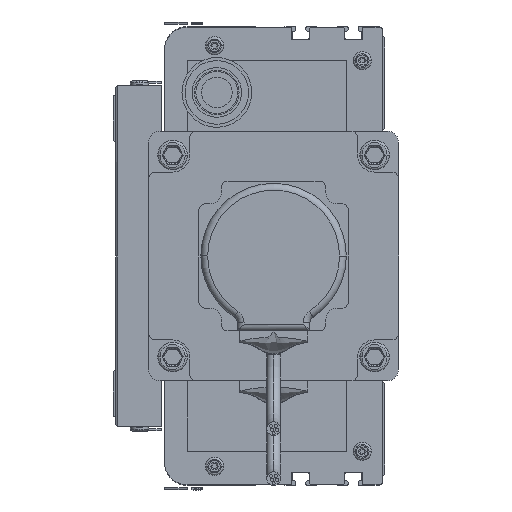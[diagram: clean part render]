
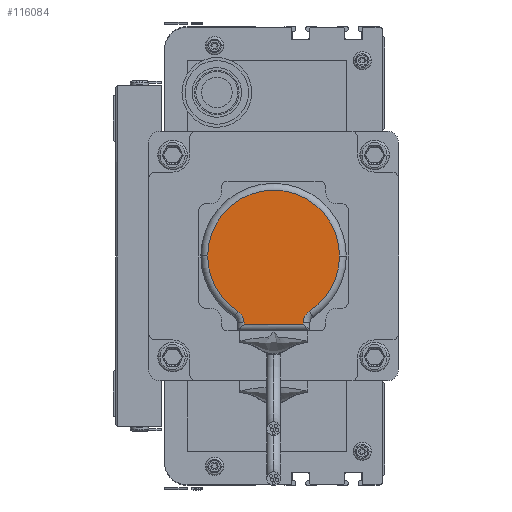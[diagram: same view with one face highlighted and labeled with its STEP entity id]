
A CAD part, left-side view. The second image highlights one B-rep face of the part: STEP entity #116084.
In plain terms, the highlighted planar face has unit normal (-1, 0, 0) as drawn and (0, 0, 1) by its records, which use the part's own axes.
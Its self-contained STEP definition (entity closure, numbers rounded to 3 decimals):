
#89264 = CARTESIAN_POINT ( 'NONE',  ( 46., 62.394, 25. ) ) ;
#89307 = CARTESIAN_POINT ( 'NONE',  ( 62., 33., 25. ) ) ;
#89321 = DIRECTION ( 'NONE',  ( 0., 1., 0. ) ) ;
#89322 = VECTOR ( 'NONE', #89321, 1000. ) ;
#89323 = CARTESIAN_POINT ( 'NONE',  ( 46., 33., 25. ) ) ;
#89324 = LINE ( 'NONE', #89323, #89322 ) ;
#89481 = CARTESIAN_POINT ( 'NONE',  ( 33., 33., 25. ) ) ;
#89483 = CARTESIAN_POINT ( 'NONE',  ( 17.257, 57.355, 25. ) ) ;
#89493 = CIRCLE ( 'NONE', #89548, 29. ) ;
#89495 = CARTESIAN_POINT ( 'NONE',  ( 48.743, 57.355, 25. ) ) ;
#89546 = DIRECTION ( 'NONE',  ( 1., 0., 0. ) ) ;
#89547 = DIRECTION ( 'NONE',  ( 0., 0., 1. ) ) ;
#89548 = AXIS2_PLACEMENT_3D ( 'NONE', #89481, #89547, #89546 ) ;
#89555 = CARTESIAN_POINT ( 'NONE',  ( 4., 33., 25. ) ) ;
#89781 = DIRECTION ( 'NONE',  ( -1., 0., 0. ) ) ;
#89782 = VECTOR ( 'NONE', #89781, 1000. ) ;
#89792 = DIRECTION ( 'NONE',  ( 1., 0., 0. ) ) ;
#89793 = DIRECTION ( 'NONE',  ( 0., 0., 1. ) ) ;
#89794 = CARTESIAN_POINT ( 'NONE',  ( 52., 62.394, 25. ) ) ;
#89795 = AXIS2_PLACEMENT_3D ( 'NONE', #89794, #89793, #89792 ) ;
#89796 = CARTESIAN_POINT ( 'NONE',  ( 17.5, 63., 25. ) ) ;
#89797 = LINE ( 'NONE', #89796, #89782 ) ;
#89803 = CIRCLE ( 'NONE', #89795, 6. ) ;
#89828 = CARTESIAN_POINT ( 'NONE',  ( 33., 33., 25. ) ) ;
#89854 = DIRECTION ( 'NONE',  ( 0., 0., 1. ) ) ;
#89856 = PLANE ( 'NONE',  #89912 ) ;
#89857 = FACE_OUTER_BOUND ( 'NONE', #116028, .T. ) ;
#89881 = CARTESIAN_POINT ( 'NONE',  ( 20., 63., 25. ) ) ;
#89882 = CARTESIAN_POINT ( 'NONE',  ( 20., 33., 25. ) ) ;
#89883 = LINE ( 'NONE', #89882, #89954 ) ;
#89905 = DIRECTION ( 'NONE',  ( 1., 0., 0. ) ) ;
#89912 = AXIS2_PLACEMENT_3D ( 'NONE', #89828, #89854, #89905 ) ;
#89921 = DIRECTION ( 'NONE',  ( 1., 0., 0. ) ) ;
#89922 = DIRECTION ( 'NONE',  ( 0., 0., 1. ) ) ;
#89923 = CARTESIAN_POINT ( 'NONE',  ( 33., 33., 25. ) ) ;
#89924 = AXIS2_PLACEMENT_3D ( 'NONE', #89923, #89922, #89921 ) ;
#89929 = DIRECTION ( 'NONE',  ( 1., 0., 0. ) ) ;
#89930 = DIRECTION ( 'NONE',  ( 0., 0., 1. ) ) ;
#89931 = CARTESIAN_POINT ( 'NONE',  ( 14., 62.394, 25. ) ) ;
#89932 = AXIS2_PLACEMENT_3D ( 'NONE', #89931, #89930, #89929 ) ;
#89937 = CIRCLE ( 'NONE', #89924, 29. ) ;
#89938 = CIRCLE ( 'NONE', #89932, 6. ) ;
#89942 = CARTESIAN_POINT ( 'NONE',  ( 46., 63., 25. ) ) ;
#89953 = DIRECTION ( 'NONE',  ( 0., -1., 0. ) ) ;
#89954 = VECTOR ( 'NONE', #89953, 1000. ) ;
#89959 = CARTESIAN_POINT ( 'NONE',  ( 33., 33., 25. ) ) ;
#89961 = CIRCLE ( 'NONE', #90003, 29. ) ;
#90001 = DIRECTION ( 'NONE',  ( 1., 0., 0. ) ) ;
#90002 = DIRECTION ( 'NONE',  ( 0., 0., 1. ) ) ;
#90003 = AXIS2_PLACEMENT_3D ( 'NONE', #89959, #90002, #90001 ) ;
#90073 = CARTESIAN_POINT ( 'NONE',  ( 20., 62.394, 25. ) ) ;
#115987 = ORIENTED_EDGE ( 'NONE', *, *, #116067, .T. ) ;
#115990 = EDGE_CURVE ( 'NONE', #115991, #116120, #89324, .T. ) ;
#115991 = VERTEX_POINT ( 'NONE', #89264 ) ;
#115995 = VERTEX_POINT ( 'NONE', #89307 ) ;
#116025 = ORIENTED_EDGE ( 'NONE', *, *, #116119, .T. ) ;
#116026 = ORIENTED_EDGE ( 'NONE', *, *, #116114, .F. ) ;
#116027 = VERTEX_POINT ( 'NONE', #89495 ) ;
#116028 = EDGE_LOOP ( 'NONE', ( #116026, #116117, #116085, #116025, #116121, #116066, #115987, #116090 ) ) ;
#116031 = EDGE_CURVE ( 'NONE', #116033, #116045, #89493, .T. ) ;
#116033 = VERTEX_POINT ( 'NONE', #89483 ) ;
#116045 = VERTEX_POINT ( 'NONE', #89555 ) ;
#116061 = EDGE_CURVE ( 'NONE', #115991, #116027, #89803, .T. ) ;
#116066 = ORIENTED_EDGE ( 'NONE', *, *, #115990, .T. ) ;
#116067 = EDGE_CURVE ( 'NONE', #116120, #116099, #89797, .T. ) ;
#116084 = ADVANCED_FACE ( 'NONE', ( #89857 ), #89856, .T. ) ;
#116085 = ORIENTED_EDGE ( 'NONE', *, *, #116124, .T. ) ;
#116090 = ORIENTED_EDGE ( 'NONE', *, *, #116106, .T. ) ;
#116099 = VERTEX_POINT ( 'NONE', #89881 ) ;
#116106 = EDGE_CURVE ( 'NONE', #116099, #116139, #89883, .T. ) ;
#116114 = EDGE_CURVE ( 'NONE', #116033, #116139, #89938, .T. ) ;
#116117 = ORIENTED_EDGE ( 'NONE', *, *, #116031, .T. ) ;
#116119 = EDGE_CURVE ( 'NONE', #115995, #116027, #89937, .T. ) ;
#116120 = VERTEX_POINT ( 'NONE', #89942 ) ;
#116121 = ORIENTED_EDGE ( 'NONE', *, *, #116061, .F. ) ;
#116124 = EDGE_CURVE ( 'NONE', #116045, #115995, #89961, .T. ) ;
#116139 = VERTEX_POINT ( 'NONE', #90073 ) ;
